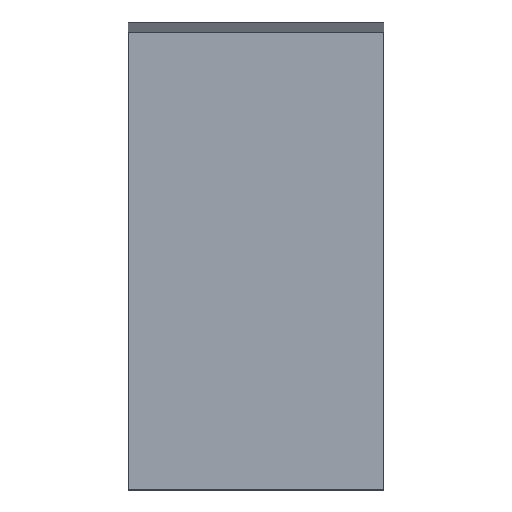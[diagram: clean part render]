
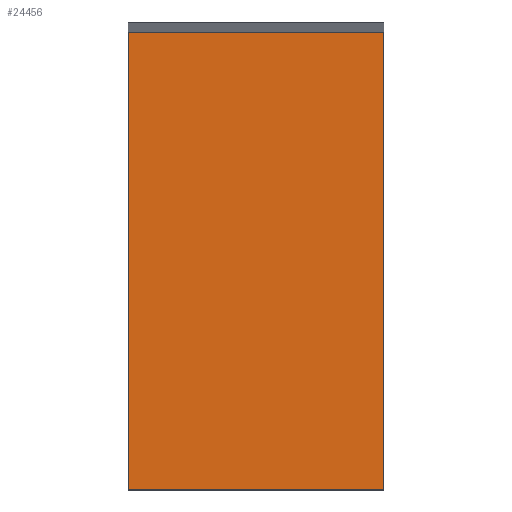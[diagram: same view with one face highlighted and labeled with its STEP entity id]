
A CAD part, front view. The second image highlights one B-rep face of the part: STEP entity #24456.
In plain terms, the highlighted planar face has unit normal (0, -1, 0).
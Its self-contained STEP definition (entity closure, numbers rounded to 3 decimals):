
#44 = PLANE('',#45);
#45 = AXIS2_PLACEMENT_3D('',#46,#47,#48);
#46 = CARTESIAN_POINT('',(-28.,1.,-26.));
#47 = DIRECTION('',(0.,-0.999,0.049));
#48 = DIRECTION('',(0.,0.049,0.999));
#72 = PLANE('',#73);
#73 = AXIS2_PLACEMENT_3D('',#74,#75,#76);
#74 = CARTESIAN_POINT('',(28.,11.009,-69.538));
#75 = DIRECTION('',(-1.,-0.,-0.));
#76 = DIRECTION('',(0.,0.,-1.));
#126 = PLANE('',#127);
#127 = AXIS2_PLACEMENT_3D('',#128,#129,#130);
#128 = CARTESIAN_POINT('',(-28.,11.009,-69.538));
#129 = DIRECTION('',(-1.,-0.,-0.));
#130 = DIRECTION('',(0.,0.,-1.));
#141 = EDGE_CURVE('',#142,#144,#146,.T.);
#142 = VERTEX_POINT('',#143);
#143 = CARTESIAN_POINT('',(-28.,1.,-26.));
#144 = VERTEX_POINT('',#145);
#145 = CARTESIAN_POINT('',(28.,1.,-26.));
#146 = SURFACE_CURVE('',#147,(#151,#158),.PCURVE_S1.);
#147 = LINE('',#148,#149);
#148 = CARTESIAN_POINT('',(-28.,1.,-26.));
#149 = VECTOR('',#150,1.);
#150 = DIRECTION('',(1.,0.,0.));
#151 = PCURVE('',#44,#152);
#152 = DEFINITIONAL_REPRESENTATION('',(#153),#157);
#153 = LINE('',#154,#155);
#154 = CARTESIAN_POINT('',(0.,0.));
#155 = VECTOR('',#156,1.);
#156 = DIRECTION('',(0.,-1.));
#157 = ( GEOMETRIC_REPRESENTATION_CONTEXT(2) 
PARAMETRIC_REPRESENTATION_CONTEXT() REPRESENTATION_CONTEXT('2D SPACE',''
  ) );
#158 = PCURVE('',#159,#164);
#159 = PLANE('',#160);
#160 = AXIS2_PLACEMENT_3D('',#161,#162,#163);
#161 = CARTESIAN_POINT('',(-28.,1.,-126.));
#162 = DIRECTION('',(0.,-1.,0.));
#163 = DIRECTION('',(0.,0.,1.));
#164 = DEFINITIONAL_REPRESENTATION('',(#165),#169);
#165 = LINE('',#166,#167);
#166 = CARTESIAN_POINT('',(100.,0.));
#167 = VECTOR('',#168,1.);
#168 = DIRECTION('',(0.,-1.));
#169 = ( GEOMETRIC_REPRESENTATION_CONTEXT(2) 
PARAMETRIC_REPRESENTATION_CONTEXT() REPRESENTATION_CONTEXT('2D SPACE',''
  ) );
#2447 = VERTEX_POINT('',#2448);
#2448 = CARTESIAN_POINT('',(-28.,1.,-126.));
#2462 = PLANE('',#2463);
#2463 = AXIS2_PLACEMENT_3D('',#2464,#2465,#2466);
#2464 = CARTESIAN_POINT('',(-28.,1.,-126.));
#2465 = DIRECTION('',(0.,-0.999,-0.049));
#2466 = DIRECTION('',(0.,-0.049,0.999));
#2474 = EDGE_CURVE('',#2447,#142,#2475,.T.);
#2475 = SURFACE_CURVE('',#2476,(#2480,#2487),.PCURVE_S1.);
#2476 = LINE('',#2477,#2478);
#2477 = CARTESIAN_POINT('',(-28.,1.,-126.));
#2478 = VECTOR('',#2479,1.);
#2479 = DIRECTION('',(0.,0.,1.));
#2480 = PCURVE('',#126,#2481);
#2481 = DEFINITIONAL_REPRESENTATION('',(#2482),#2486);
#2482 = LINE('',#2483,#2484);
#2483 = CARTESIAN_POINT('',(56.461,10.009));
#2484 = VECTOR('',#2485,1.);
#2485 = DIRECTION('',(-1.,0.));
#2486 = ( GEOMETRIC_REPRESENTATION_CONTEXT(2) 
PARAMETRIC_REPRESENTATION_CONTEXT() REPRESENTATION_CONTEXT('2D SPACE',''
  ) );
#2487 = PCURVE('',#159,#2488);
#2488 = DEFINITIONAL_REPRESENTATION('',(#2489),#2493);
#2489 = LINE('',#2490,#2491);
#2490 = CARTESIAN_POINT('',(0.,0.));
#2491 = VECTOR('',#2492,1.);
#2492 = DIRECTION('',(1.,0.));
#2493 = ( GEOMETRIC_REPRESENTATION_CONTEXT(2) 
PARAMETRIC_REPRESENTATION_CONTEXT() REPRESENTATION_CONTEXT('2D SPACE',''
  ) );
#15413 = VERTEX_POINT('',#15414);
#15414 = CARTESIAN_POINT('',(28.,1.,-126.));
#15435 = EDGE_CURVE('',#15413,#144,#15436,.T.);
#15436 = SURFACE_CURVE('',#15437,(#15441,#15448),.PCURVE_S1.);
#15437 = LINE('',#15438,#15439);
#15438 = CARTESIAN_POINT('',(28.,1.,-126.));
#15439 = VECTOR('',#15440,1.);
#15440 = DIRECTION('',(0.,0.,1.));
#15441 = PCURVE('',#72,#15442);
#15442 = DEFINITIONAL_REPRESENTATION('',(#15443),#15447);
#15443 = LINE('',#15444,#15445);
#15444 = CARTESIAN_POINT('',(56.461,10.009));
#15445 = VECTOR('',#15446,1.);
#15446 = DIRECTION('',(-1.,0.));
#15447 = ( GEOMETRIC_REPRESENTATION_CONTEXT(2) 
PARAMETRIC_REPRESENTATION_CONTEXT() REPRESENTATION_CONTEXT('2D SPACE',''
  ) );
#15448 = PCURVE('',#159,#15449);
#15449 = DEFINITIONAL_REPRESENTATION('',(#15450),#15454);
#15450 = LINE('',#15451,#15452);
#15451 = CARTESIAN_POINT('',(0.,-56.));
#15452 = VECTOR('',#15453,1.);
#15453 = DIRECTION('',(1.,0.));
#15454 = ( GEOMETRIC_REPRESENTATION_CONTEXT(2) 
PARAMETRIC_REPRESENTATION_CONTEXT() REPRESENTATION_CONTEXT('2D SPACE',''
  ) );
#24456 = ADVANCED_FACE('',(#24457),#159,.T.);
#24457 = FACE_BOUND('',#24458,.T.);
#24458 = EDGE_LOOP('',(#24459,#24480,#24481,#24482));
#24459 = ORIENTED_EDGE('',*,*,#24460,.T.);
#24460 = EDGE_CURVE('',#2447,#15413,#24461,.T.);
#24461 = SURFACE_CURVE('',#24462,(#24466,#24473),.PCURVE_S1.);
#24462 = LINE('',#24463,#24464);
#24463 = CARTESIAN_POINT('',(-28.,1.,-126.));
#24464 = VECTOR('',#24465,1.);
#24465 = DIRECTION('',(1.,0.,0.));
#24466 = PCURVE('',#159,#24467);
#24467 = DEFINITIONAL_REPRESENTATION('',(#24468),#24472);
#24468 = LINE('',#24469,#24470);
#24469 = CARTESIAN_POINT('',(0.,0.));
#24470 = VECTOR('',#24471,1.);
#24471 = DIRECTION('',(0.,-1.));
#24472 = ( GEOMETRIC_REPRESENTATION_CONTEXT(2) 
PARAMETRIC_REPRESENTATION_CONTEXT() REPRESENTATION_CONTEXT('2D SPACE',''
  ) );
#24473 = PCURVE('',#2462,#24474);
#24474 = DEFINITIONAL_REPRESENTATION('',(#24475),#24479);
#24475 = LINE('',#24476,#24477);
#24476 = CARTESIAN_POINT('',(0.,0.));
#24477 = VECTOR('',#24478,1.);
#24478 = DIRECTION('',(0.,-1.));
#24479 = ( GEOMETRIC_REPRESENTATION_CONTEXT(2) 
PARAMETRIC_REPRESENTATION_CONTEXT() REPRESENTATION_CONTEXT('2D SPACE',''
  ) );
#24480 = ORIENTED_EDGE('',*,*,#15435,.T.);
#24481 = ORIENTED_EDGE('',*,*,#141,.F.);
#24482 = ORIENTED_EDGE('',*,*,#2474,.F.);
